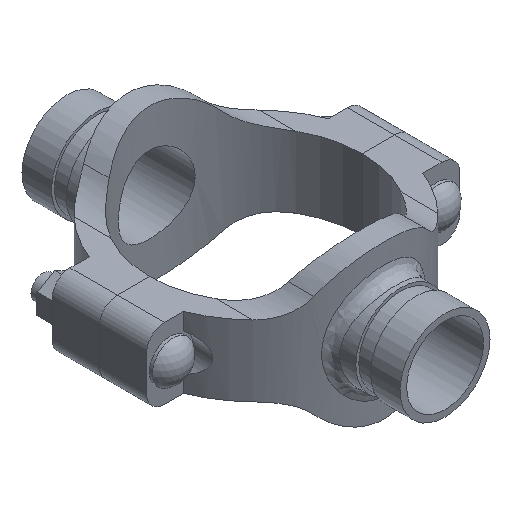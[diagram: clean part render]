
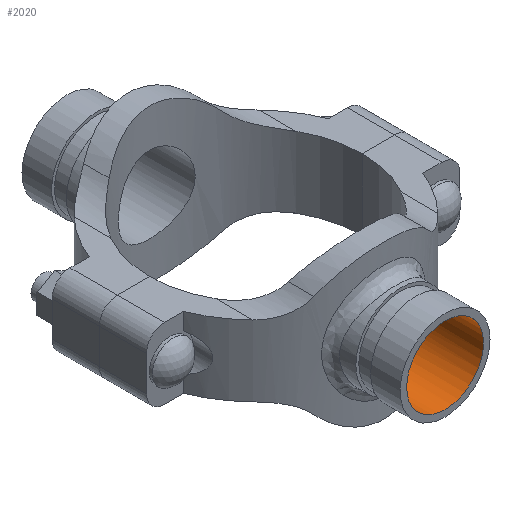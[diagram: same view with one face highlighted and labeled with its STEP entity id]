
A CAD part, isometric view. The second image highlights one B-rep face of the part: STEP entity #2020.
In plain terms, the highlighted cylindrical face has radius 20.637 mm (diameter 41.275 mm), a full revolution.
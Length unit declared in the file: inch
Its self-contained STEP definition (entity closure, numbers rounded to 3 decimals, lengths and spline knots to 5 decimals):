
#52=B_SPLINE_CURVE_WITH_KNOTS('',3,(#4020,#4021,#4022,#4023,#4024,#4025,
#4026,#4027,#4028,#4029,#4030,#4031,#4032,#4033,#4034,#4035,#4036,#4037,
#4038,#4039,#4040,#4041,#4042,#4043,#4044,#4045,#4046,#4047,#4048,#4049,
#4050,#4051,#4052,#4053,#4054,#4055,#4056,#4057,#4058,#4059,#4060,#4061,
#4062,#4063,#4064,#4065,#4066,#4067,#4068,#4069,#4070,#4071,#4072,#4073,
#4074,#4075,#4076,#4077,#4078,#4079,#4080,#4081,#4082,#4083,#4084,#4085),
 .UNSPECIFIED.,.T.,.F.,(4,2,2,2,2,2,2,2,2,2,2,2,2,2,2,2,2,2,2,2,2,2,2,2,
2,2,2,2,2,2,2,2,4),(0.,0.39269,0.78538,1.17808,
1.57077,1.96321,2.35564,2.74808,3.14051,
3.53295,3.92539,4.31782,4.71026,5.10295,
5.49564,5.88834,6.28103,6.67372,7.06641,
7.45911,7.8518,8.24423,8.63667,9.02911,
9.42154,9.81398,10.20642,10.59885,10.99129,
11.38398,11.77667,12.16937,12.56206),
 .UNSPECIFIED.);
#99=CYLINDRICAL_SURFACE('',#2261,0.8125);
#218=FACE_OUTER_BOUND('',#342,.T.);
#342=EDGE_LOOP('',(#1624,#1625,#1626,#1627));
#494=LINE('',#4019,#644);
#644=VECTOR('',#2736,0.8125);
#748=CIRCLE('',#2262,0.8125);
#917=VERTEX_POINT('',#4016);
#918=VERTEX_POINT('',#4018);
#1168=EDGE_CURVE('',#917,#917,#748,.T.);
#1169=EDGE_CURVE('',#917,#918,#494,.T.);
#1170=EDGE_CURVE('',#918,#918,#52,.T.);
#1624=ORIENTED_EDGE('',*,*,#1168,.F.);
#1625=ORIENTED_EDGE('',*,*,#1169,.T.);
#1626=ORIENTED_EDGE('',*,*,#1170,.F.);
#1627=ORIENTED_EDGE('',*,*,#1169,.F.);
#2020=ADVANCED_FACE('',(#218),#99,.F.);
#2261=AXIS2_PLACEMENT_3D('',#4015,#2732,#2733);
#2262=AXIS2_PLACEMENT_3D('',#4017,#2734,#2735);
#2732=DIRECTION('center_axis',(0.,-1.,0.));
#2733=DIRECTION('ref_axis',(-1.,0.,0.));
#2734=DIRECTION('center_axis',(0.,-1.,0.));
#2735=DIRECTION('ref_axis',(-1.,0.,0.));
#2736=DIRECTION('',(0.,-1.,0.));
#4015=CARTESIAN_POINT('Origin',(0.,4.,0.));
#4016=CARTESIAN_POINT('',(0.8125,4.,0.));
#4017=CARTESIAN_POINT('Origin',(0.,4.,0.));
#4018=CARTESIAN_POINT('',(0.8125,2.09818,0.));
#4019=CARTESIAN_POINT('',(0.8125,4.,0.));
#4020=CARTESIAN_POINT('Ctrl Pts',(0.8125,2.09818,0.));
#4021=CARTESIAN_POINT('Ctrl Pts',(0.8125,2.09818,-0.05153));
#4022=CARTESIAN_POINT('Ctrl Pts',(0.80752,2.10013,-0.10466));
#4023=CARTESIAN_POINT('Ctrl Pts',(0.78672,2.10801,-0.21002));
#4024=CARTESIAN_POINT('Ctrl Pts',(0.77091,2.11393,-0.26226));
#4025=CARTESIAN_POINT('Ctrl Pts',(0.72932,2.12863,-0.36219));
#4026=CARTESIAN_POINT('Ctrl Pts',(0.7035,2.13742,-0.40997));
#4027=CARTESIAN_POINT('Ctrl Pts',(0.64402,2.15609,-0.49823));
#4028=CARTESIAN_POINT('Ctrl Pts',(0.61035,2.16595,-0.5387));
#4029=CARTESIAN_POINT('Ctrl Pts',(0.53873,2.18487,-0.61032));
#4030=CARTESIAN_POINT('Ctrl Pts',(0.49826,2.1946,-0.64399));
#4031=CARTESIAN_POINT('Ctrl Pts',(0.41,2.21279,-0.70348));
#4032=CARTESIAN_POINT('Ctrl Pts',(0.3622,2.22123,-0.72932));
#4033=CARTESIAN_POINT('Ctrl Pts',(0.26223,2.23524,-0.77092));
#4034=CARTESIAN_POINT('Ctrl Pts',(0.20998,2.2408,-0.78673));
#4035=CARTESIAN_POINT('Ctrl Pts',(0.10462,2.24819,-0.80752));
#4036=CARTESIAN_POINT('Ctrl Pts',(0.0515,2.25,-0.8125));
#4037=CARTESIAN_POINT('Ctrl Pts',(-0.0515,2.25,-0.8125));
#4038=CARTESIAN_POINT('Ctrl Pts',(-0.10462,2.24819,-0.80752));
#4039=CARTESIAN_POINT('Ctrl Pts',(-0.20998,2.2408,-0.78673));
#4040=CARTESIAN_POINT('Ctrl Pts',(-0.26223,2.23524,-0.77092));
#4041=CARTESIAN_POINT('Ctrl Pts',(-0.3622,2.22123,-0.72932));
#4042=CARTESIAN_POINT('Ctrl Pts',(-0.41,2.21279,-0.70348));
#4043=CARTESIAN_POINT('Ctrl Pts',(-0.49826,2.1946,-0.64399));
#4044=CARTESIAN_POINT('Ctrl Pts',(-0.53873,2.18487,-0.61032));
#4045=CARTESIAN_POINT('Ctrl Pts',(-0.61035,2.16595,-0.5387));
#4046=CARTESIAN_POINT('Ctrl Pts',(-0.64402,2.15609,-0.49823));
#4047=CARTESIAN_POINT('Ctrl Pts',(-0.7035,2.13742,-0.40997));
#4048=CARTESIAN_POINT('Ctrl Pts',(-0.72932,2.12863,-0.36219));
#4049=CARTESIAN_POINT('Ctrl Pts',(-0.77091,2.11393,-0.26226));
#4050=CARTESIAN_POINT('Ctrl Pts',(-0.78672,2.10801,-0.21002));
#4051=CARTESIAN_POINT('Ctrl Pts',(-0.80752,2.10013,-0.10466));
#4052=CARTESIAN_POINT('Ctrl Pts',(-0.8125,2.09818,-0.05153));
#4053=CARTESIAN_POINT('Ctrl Pts',(-0.8125,2.09818,0.05153));
#4054=CARTESIAN_POINT('Ctrl Pts',(-0.80752,2.10013,0.10466));
#4055=CARTESIAN_POINT('Ctrl Pts',(-0.78672,2.10801,0.21002));
#4056=CARTESIAN_POINT('Ctrl Pts',(-0.77091,2.11393,0.26226));
#4057=CARTESIAN_POINT('Ctrl Pts',(-0.72932,2.12863,0.36219));
#4058=CARTESIAN_POINT('Ctrl Pts',(-0.7035,2.13742,0.40997));
#4059=CARTESIAN_POINT('Ctrl Pts',(-0.64402,2.15609,0.49823));
#4060=CARTESIAN_POINT('Ctrl Pts',(-0.61035,2.16595,0.5387));
#4061=CARTESIAN_POINT('Ctrl Pts',(-0.53873,2.18487,0.61032));
#4062=CARTESIAN_POINT('Ctrl Pts',(-0.49826,2.1946,0.64399));
#4063=CARTESIAN_POINT('Ctrl Pts',(-0.41,2.21279,0.70348));
#4064=CARTESIAN_POINT('Ctrl Pts',(-0.3622,2.22123,0.72932));
#4065=CARTESIAN_POINT('Ctrl Pts',(-0.26223,2.23524,0.77092));
#4066=CARTESIAN_POINT('Ctrl Pts',(-0.20998,2.2408,0.78673));
#4067=CARTESIAN_POINT('Ctrl Pts',(-0.10462,2.24819,0.80752));
#4068=CARTESIAN_POINT('Ctrl Pts',(-0.0515,2.25,0.8125));
#4069=CARTESIAN_POINT('Ctrl Pts',(0.0515,2.25,0.8125));
#4070=CARTESIAN_POINT('Ctrl Pts',(0.10462,2.24819,0.80752));
#4071=CARTESIAN_POINT('Ctrl Pts',(0.20998,2.2408,0.78673));
#4072=CARTESIAN_POINT('Ctrl Pts',(0.26223,2.23524,0.77092));
#4073=CARTESIAN_POINT('Ctrl Pts',(0.3622,2.22123,0.72932));
#4074=CARTESIAN_POINT('Ctrl Pts',(0.41,2.21279,0.70348));
#4075=CARTESIAN_POINT('Ctrl Pts',(0.49826,2.1946,0.64399));
#4076=CARTESIAN_POINT('Ctrl Pts',(0.53873,2.18487,0.61032));
#4077=CARTESIAN_POINT('Ctrl Pts',(0.61035,2.16595,0.5387));
#4078=CARTESIAN_POINT('Ctrl Pts',(0.64402,2.15609,0.49823));
#4079=CARTESIAN_POINT('Ctrl Pts',(0.7035,2.13742,0.40997));
#4080=CARTESIAN_POINT('Ctrl Pts',(0.72932,2.12863,0.36219));
#4081=CARTESIAN_POINT('Ctrl Pts',(0.77091,2.11393,0.26226));
#4082=CARTESIAN_POINT('Ctrl Pts',(0.78672,2.10801,0.21002));
#4083=CARTESIAN_POINT('Ctrl Pts',(0.80752,2.10013,0.10466));
#4084=CARTESIAN_POINT('Ctrl Pts',(0.8125,2.09818,0.05153));
#4085=CARTESIAN_POINT('Ctrl Pts',(0.8125,2.09818,0.));
